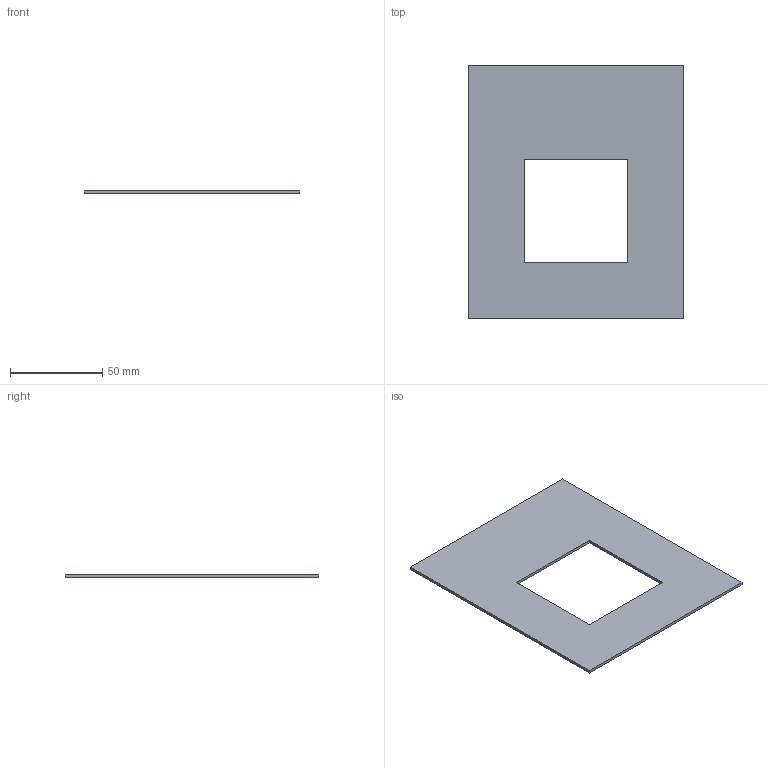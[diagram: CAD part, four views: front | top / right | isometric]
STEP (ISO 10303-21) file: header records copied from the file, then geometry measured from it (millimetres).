
FILE_DESCRIPTION(('Open CASCADE Model'),'2;1');
FILE_NAME('Open CASCADE Shape Model','2023-03-08T18:21:57',('Author'),( 'Open CASCADE'),'Open CASCADE STEP processor 7.5','Open CASCADE 7.5' ,'Unknown');
FILE_SCHEMA(('AUTOMOTIVE_DESIGN { 1 0 10303 214 1 1 1 1 }'));
Length unit declared in the file: millimetre
Products named in the file (3): PCB; Board; Open CASCADE STEP translator 7.5 2.1.1
Assembly tree (2 placements, depth 3):
  PCB
    Board
      Open CASCADE STEP translator 7.5 2.1.1
Bounding box: 116.84 x 137.16 x 1.6 mm (x, y, z)
Volume: 20645.2 mm3; surface area: 26976.8 mm2
Topology: 1 solids, 1 shells, 10 faces, 24 edges, 16 vertices
Faces by surface type: plane 10
Entity records: 349 total; most frequent: CARTESIAN_POINT 53, DIRECTION 50, ORIENTED_EDGE 48, EDGE_CURVE 24, LINE 24, VECTOR 24, VERTEX_POINT 16, AXIS2_PLACEMENT_3D 13
